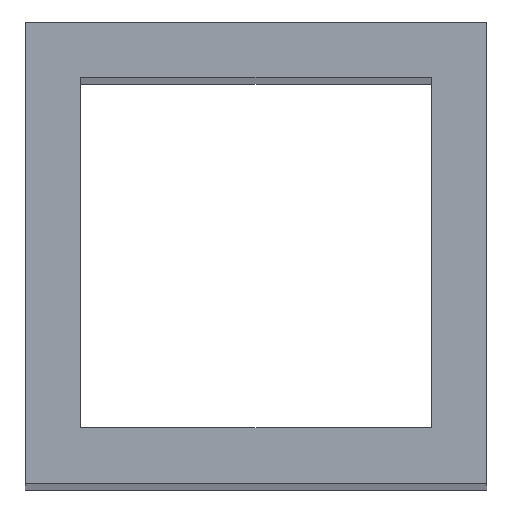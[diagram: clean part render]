
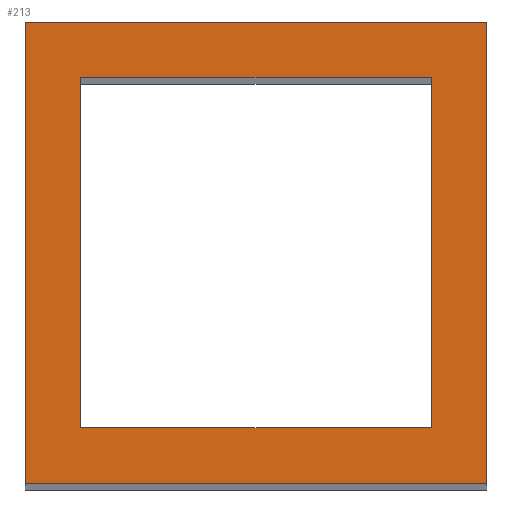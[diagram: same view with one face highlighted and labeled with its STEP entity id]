
A CAD part, top view. The second image highlights one B-rep face of the part: STEP entity #213.
In plain terms, the highlighted planar face has unit normal (0, 0, 1).
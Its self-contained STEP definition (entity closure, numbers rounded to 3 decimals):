
#24 = VERTEX_POINT('',#25);
#25 = CARTESIAN_POINT('',(232.5,32.5,219.));
#32 = PLANE('',#33);
#33 = AXIS2_PLACEMENT_3D('',#34,#35,#36);
#34 = CARTESIAN_POINT('',(232.5,32.5,4.));
#35 = DIRECTION('',(1.,0.,-0.));
#36 = DIRECTION('',(0.,0.,1.));
#44 = PLANE('',#45);
#45 = AXIS2_PLACEMENT_3D('',#46,#47,#48);
#46 = CARTESIAN_POINT('',(232.5,32.5,4.));
#47 = DIRECTION('',(-0.,1.,0.));
#48 = DIRECTION('',(0.,0.,1.));
#85 = VERTEX_POINT('',#86);
#86 = CARTESIAN_POINT('',(232.5,57.5,219.));
#100 = PLANE('',#101);
#101 = AXIS2_PLACEMENT_3D('',#102,#103,#104);
#102 = CARTESIAN_POINT('',(232.5,57.5,4.));
#103 = DIRECTION('',(-0.,1.,0.));
#104 = DIRECTION('',(0.,0.,1.));
#112 = EDGE_CURVE('',#24,#85,#113,.T.);
#113 = SURFACE_CURVE('',#114,(#118,#125),.PCURVE_S1.);
#114 = LINE('',#115,#116);
#115 = CARTESIAN_POINT('',(232.5,32.5,219.));
#116 = VECTOR('',#117,1.);
#117 = DIRECTION('',(-0.,1.,0.));
#118 = PCURVE('',#32,#119);
#119 = DEFINITIONAL_REPRESENTATION('',(#120),#124);
#120 = LINE('',#121,#122);
#121 = CARTESIAN_POINT('',(215.,0.));
#122 = VECTOR('',#123,1.);
#123 = DIRECTION('',(0.,-1.));
#124 = ( GEOMETRIC_REPRESENTATION_CONTEXT(2) 
PARAMETRIC_REPRESENTATION_CONTEXT() REPRESENTATION_CONTEXT('2D SPACE',''
  ) );
#125 = PCURVE('',#126,#131);
#126 = PLANE('',#127);
#127 = AXIS2_PLACEMENT_3D('',#128,#129,#130);
#128 = CARTESIAN_POINT('',(232.5,32.5,219.));
#129 = DIRECTION('',(0.,0.,1.));
#130 = DIRECTION('',(1.,0.,-0.));
#131 = DEFINITIONAL_REPRESENTATION('',(#132),#136);
#132 = LINE('',#133,#134);
#133 = CARTESIAN_POINT('',(0.,0.));
#134 = VECTOR('',#135,1.);
#135 = DIRECTION('',(0.,1.));
#136 = ( GEOMETRIC_REPRESENTATION_CONTEXT(2) 
PARAMETRIC_REPRESENTATION_CONTEXT() REPRESENTATION_CONTEXT('2D SPACE',''
  ) );
#165 = EDGE_CURVE('',#24,#166,#168,.T.);
#166 = VERTEX_POINT('',#167);
#167 = CARTESIAN_POINT('',(257.5,32.5,219.));
#168 = SURFACE_CURVE('',#169,(#173,#180),.PCURVE_S1.);
#169 = LINE('',#170,#171);
#170 = CARTESIAN_POINT('',(232.5,32.5,219.));
#171 = VECTOR('',#172,1.);
#172 = DIRECTION('',(1.,0.,-0.));
#173 = PCURVE('',#44,#174);
#174 = DEFINITIONAL_REPRESENTATION('',(#175),#179);
#175 = LINE('',#176,#177);
#176 = CARTESIAN_POINT('',(215.,0.));
#177 = VECTOR('',#178,1.);
#178 = DIRECTION('',(0.,1.));
#179 = ( GEOMETRIC_REPRESENTATION_CONTEXT(2) 
PARAMETRIC_REPRESENTATION_CONTEXT() REPRESENTATION_CONTEXT('2D SPACE',''
  ) );
#180 = PCURVE('',#126,#181);
#181 = DEFINITIONAL_REPRESENTATION('',(#182),#186);
#182 = LINE('',#183,#184);
#183 = CARTESIAN_POINT('',(0.,0.));
#184 = VECTOR('',#185,1.);
#185 = DIRECTION('',(1.,0.));
#186 = ( GEOMETRIC_REPRESENTATION_CONTEXT(2) 
PARAMETRIC_REPRESENTATION_CONTEXT() REPRESENTATION_CONTEXT('2D SPACE',''
  ) );
#202 = PLANE('',#203);
#203 = AXIS2_PLACEMENT_3D('',#204,#205,#206);
#204 = CARTESIAN_POINT('',(257.5,32.5,4.));
#205 = DIRECTION('',(1.,0.,-0.));
#206 = DIRECTION('',(0.,0.,1.));
#213 = ADVANCED_FACE('',(#214,#262),#126,.T.);
#214 = FACE_BOUND('',#215,.T.);
#215 = EDGE_LOOP('',(#216,#217,#218,#241));
#216 = ORIENTED_EDGE('',*,*,#112,.F.);
#217 = ORIENTED_EDGE('',*,*,#165,.T.);
#218 = ORIENTED_EDGE('',*,*,#219,.T.);
#219 = EDGE_CURVE('',#166,#220,#222,.T.);
#220 = VERTEX_POINT('',#221);
#221 = CARTESIAN_POINT('',(257.5,57.5,219.));
#222 = SURFACE_CURVE('',#223,(#227,#234),.PCURVE_S1.);
#223 = LINE('',#224,#225);
#224 = CARTESIAN_POINT('',(257.5,32.5,219.));
#225 = VECTOR('',#226,1.);
#226 = DIRECTION('',(-0.,1.,0.));
#227 = PCURVE('',#126,#228);
#228 = DEFINITIONAL_REPRESENTATION('',(#229),#233);
#229 = LINE('',#230,#231);
#230 = CARTESIAN_POINT('',(25.,0.));
#231 = VECTOR('',#232,1.);
#232 = DIRECTION('',(0.,1.));
#233 = ( GEOMETRIC_REPRESENTATION_CONTEXT(2) 
PARAMETRIC_REPRESENTATION_CONTEXT() REPRESENTATION_CONTEXT('2D SPACE',''
  ) );
#234 = PCURVE('',#202,#235);
#235 = DEFINITIONAL_REPRESENTATION('',(#236),#240);
#236 = LINE('',#237,#238);
#237 = CARTESIAN_POINT('',(215.,0.));
#238 = VECTOR('',#239,1.);
#239 = DIRECTION('',(0.,-1.));
#240 = ( GEOMETRIC_REPRESENTATION_CONTEXT(2) 
PARAMETRIC_REPRESENTATION_CONTEXT() REPRESENTATION_CONTEXT('2D SPACE',''
  ) );
#241 = ORIENTED_EDGE('',*,*,#242,.F.);
#242 = EDGE_CURVE('',#85,#220,#243,.T.);
#243 = SURFACE_CURVE('',#244,(#248,#255),.PCURVE_S1.);
#244 = LINE('',#245,#246);
#245 = CARTESIAN_POINT('',(232.5,57.5,219.));
#246 = VECTOR('',#247,1.);
#247 = DIRECTION('',(1.,0.,-0.));
#248 = PCURVE('',#126,#249);
#249 = DEFINITIONAL_REPRESENTATION('',(#250),#254);
#250 = LINE('',#251,#252);
#251 = CARTESIAN_POINT('',(0.,25.));
#252 = VECTOR('',#253,1.);
#253 = DIRECTION('',(1.,0.));
#254 = ( GEOMETRIC_REPRESENTATION_CONTEXT(2) 
PARAMETRIC_REPRESENTATION_CONTEXT() REPRESENTATION_CONTEXT('2D SPACE',''
  ) );
#255 = PCURVE('',#100,#256);
#256 = DEFINITIONAL_REPRESENTATION('',(#257),#261);
#257 = LINE('',#258,#259);
#258 = CARTESIAN_POINT('',(215.,0.));
#259 = VECTOR('',#260,1.);
#260 = DIRECTION('',(0.,1.));
#261 = ( GEOMETRIC_REPRESENTATION_CONTEXT(2) 
PARAMETRIC_REPRESENTATION_CONTEXT() REPRESENTATION_CONTEXT('2D SPACE',''
  ) );
#262 = FACE_BOUND('',#263,.T.);
#263 = EDGE_LOOP('',(#264,#292,#318,#344));
#264 = ORIENTED_EDGE('',*,*,#265,.T.);
#265 = EDGE_CURVE('',#266,#268,#270,.T.);
#266 = VERTEX_POINT('',#267);
#267 = CARTESIAN_POINT('',(254.5,35.5,219.));
#268 = VERTEX_POINT('',#269);
#269 = CARTESIAN_POINT('',(235.5,35.5,219.));
#270 = SURFACE_CURVE('',#271,(#275,#281),.PCURVE_S1.);
#271 = LINE('',#272,#273);
#272 = CARTESIAN_POINT('',(234.,35.5,219.));
#273 = VECTOR('',#274,1.);
#274 = DIRECTION('',(-1.,-0.,0.));
#275 = PCURVE('',#126,#276);
#276 = DEFINITIONAL_REPRESENTATION('',(#277),#280);
#277 = B_SPLINE_CURVE_WITH_KNOTS('',1,(#278,#279),.UNSPECIFIED.,.F.,.F.,
  (2,2),(-20.5,-1.5),.PIECEWISE_BEZIER_KNOTS.);
#278 = CARTESIAN_POINT('',(22.,3.));
#279 = CARTESIAN_POINT('',(3.,3.));
#280 = ( GEOMETRIC_REPRESENTATION_CONTEXT(2) 
PARAMETRIC_REPRESENTATION_CONTEXT() REPRESENTATION_CONTEXT('2D SPACE',''
  ) );
#281 = PCURVE('',#282,#287);
#282 = PLANE('',#283);
#283 = AXIS2_PLACEMENT_3D('',#284,#285,#286);
#284 = CARTESIAN_POINT('',(235.5,35.5,3.));
#285 = DIRECTION('',(-0.,1.,0.));
#286 = DIRECTION('',(0.,0.,1.));
#287 = DEFINITIONAL_REPRESENTATION('',(#288),#291);
#288 = B_SPLINE_CURVE_WITH_KNOTS('',1,(#289,#290),.UNSPECIFIED.,.F.,.F.,
  (2,2),(-20.5,-1.5),.PIECEWISE_BEZIER_KNOTS.);
#289 = CARTESIAN_POINT('',(216.,19.));
#290 = CARTESIAN_POINT('',(216.,0.));
#291 = ( GEOMETRIC_REPRESENTATION_CONTEXT(2) 
PARAMETRIC_REPRESENTATION_CONTEXT() REPRESENTATION_CONTEXT('2D SPACE',''
  ) );
#292 = ORIENTED_EDGE('',*,*,#293,.T.);
#293 = EDGE_CURVE('',#268,#294,#296,.T.);
#294 = VERTEX_POINT('',#295);
#295 = CARTESIAN_POINT('',(235.5,54.5,219.));
#296 = SURFACE_CURVE('',#297,(#301,#307),.PCURVE_S1.);
#297 = LINE('',#298,#299);
#298 = CARTESIAN_POINT('',(235.5,34.,219.));
#299 = VECTOR('',#300,1.);
#300 = DIRECTION('',(-0.,1.,0.));
#301 = PCURVE('',#126,#302);
#302 = DEFINITIONAL_REPRESENTATION('',(#303),#306);
#303 = B_SPLINE_CURVE_WITH_KNOTS('',1,(#304,#305),.UNSPECIFIED.,.F.,.F.,
  (2,2),(1.5,20.5),.PIECEWISE_BEZIER_KNOTS.);
#304 = CARTESIAN_POINT('',(3.,3.));
#305 = CARTESIAN_POINT('',(3.,22.));
#306 = ( GEOMETRIC_REPRESENTATION_CONTEXT(2) 
PARAMETRIC_REPRESENTATION_CONTEXT() REPRESENTATION_CONTEXT('2D SPACE',''
  ) );
#307 = PCURVE('',#308,#313);
#308 = PLANE('',#309);
#309 = AXIS2_PLACEMENT_3D('',#310,#311,#312);
#310 = CARTESIAN_POINT('',(235.5,35.5,3.));
#311 = DIRECTION('',(1.,0.,-0.));
#312 = DIRECTION('',(0.,0.,1.));
#313 = DEFINITIONAL_REPRESENTATION('',(#314),#317);
#314 = B_SPLINE_CURVE_WITH_KNOTS('',1,(#315,#316),.UNSPECIFIED.,.F.,.F.,
  (2,2),(1.5,20.5),.PIECEWISE_BEZIER_KNOTS.);
#315 = CARTESIAN_POINT('',(216.,0.));
#316 = CARTESIAN_POINT('',(216.,-19.));
#317 = ( GEOMETRIC_REPRESENTATION_CONTEXT(2) 
PARAMETRIC_REPRESENTATION_CONTEXT() REPRESENTATION_CONTEXT('2D SPACE',''
  ) );
#318 = ORIENTED_EDGE('',*,*,#319,.F.);
#319 = EDGE_CURVE('',#320,#294,#322,.T.);
#320 = VERTEX_POINT('',#321);
#321 = CARTESIAN_POINT('',(254.5,54.5,219.));
#322 = SURFACE_CURVE('',#323,(#327,#333),.PCURVE_S1.);
#323 = LINE('',#324,#325);
#324 = CARTESIAN_POINT('',(234.,54.5,219.));
#325 = VECTOR('',#326,1.);
#326 = DIRECTION('',(-1.,-0.,0.));
#327 = PCURVE('',#126,#328);
#328 = DEFINITIONAL_REPRESENTATION('',(#329),#332);
#329 = B_SPLINE_CURVE_WITH_KNOTS('',1,(#330,#331),.UNSPECIFIED.,.F.,.F.,
  (2,2),(-20.5,-1.5),.PIECEWISE_BEZIER_KNOTS.);
#330 = CARTESIAN_POINT('',(22.,22.));
#331 = CARTESIAN_POINT('',(3.,22.));
#332 = ( GEOMETRIC_REPRESENTATION_CONTEXT(2) 
PARAMETRIC_REPRESENTATION_CONTEXT() REPRESENTATION_CONTEXT('2D SPACE',''
  ) );
#333 = PCURVE('',#334,#339);
#334 = PLANE('',#335);
#335 = AXIS2_PLACEMENT_3D('',#336,#337,#338);
#336 = CARTESIAN_POINT('',(235.5,54.5,3.));
#337 = DIRECTION('',(-0.,1.,0.));
#338 = DIRECTION('',(0.,0.,1.));
#339 = DEFINITIONAL_REPRESENTATION('',(#340),#343);
#340 = B_SPLINE_CURVE_WITH_KNOTS('',1,(#341,#342),.UNSPECIFIED.,.F.,.F.,
  (2,2),(-20.5,-1.5),.PIECEWISE_BEZIER_KNOTS.);
#341 = CARTESIAN_POINT('',(216.,19.));
#342 = CARTESIAN_POINT('',(216.,0.));
#343 = ( GEOMETRIC_REPRESENTATION_CONTEXT(2) 
PARAMETRIC_REPRESENTATION_CONTEXT() REPRESENTATION_CONTEXT('2D SPACE',''
  ) );
#344 = ORIENTED_EDGE('',*,*,#345,.F.);
#345 = EDGE_CURVE('',#266,#320,#346,.T.);
#346 = SURFACE_CURVE('',#347,(#351,#357),.PCURVE_S1.);
#347 = LINE('',#348,#349);
#348 = CARTESIAN_POINT('',(254.5,34.,219.));
#349 = VECTOR('',#350,1.);
#350 = DIRECTION('',(-0.,1.,0.));
#351 = PCURVE('',#126,#352);
#352 = DEFINITIONAL_REPRESENTATION('',(#353),#356);
#353 = B_SPLINE_CURVE_WITH_KNOTS('',1,(#354,#355),.UNSPECIFIED.,.F.,.F.,
  (2,2),(1.5,20.5),.PIECEWISE_BEZIER_KNOTS.);
#354 = CARTESIAN_POINT('',(22.,3.));
#355 = CARTESIAN_POINT('',(22.,22.));
#356 = ( GEOMETRIC_REPRESENTATION_CONTEXT(2) 
PARAMETRIC_REPRESENTATION_CONTEXT() REPRESENTATION_CONTEXT('2D SPACE',''
  ) );
#357 = PCURVE('',#358,#363);
#358 = PLANE('',#359);
#359 = AXIS2_PLACEMENT_3D('',#360,#361,#362);
#360 = CARTESIAN_POINT('',(254.5,35.5,3.));
#361 = DIRECTION('',(1.,0.,-0.));
#362 = DIRECTION('',(0.,0.,1.));
#363 = DEFINITIONAL_REPRESENTATION('',(#364),#367);
#364 = B_SPLINE_CURVE_WITH_KNOTS('',1,(#365,#366),.UNSPECIFIED.,.F.,.F.,
  (2,2),(1.5,20.5),.PIECEWISE_BEZIER_KNOTS.);
#365 = CARTESIAN_POINT('',(216.,0.));
#366 = CARTESIAN_POINT('',(216.,-19.));
#367 = ( GEOMETRIC_REPRESENTATION_CONTEXT(2) 
PARAMETRIC_REPRESENTATION_CONTEXT() REPRESENTATION_CONTEXT('2D SPACE',''
  ) );
